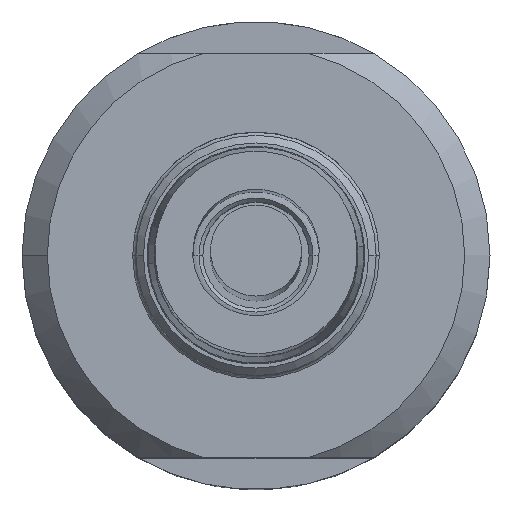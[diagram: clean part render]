
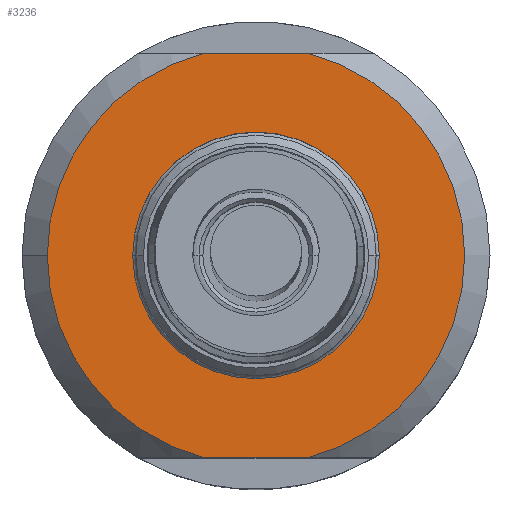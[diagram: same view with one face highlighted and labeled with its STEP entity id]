
A CAD part, top view. The second image highlights one B-rep face of the part: STEP entity #3236.
In plain terms, the highlighted planar face has unit normal (0, 0, 1).
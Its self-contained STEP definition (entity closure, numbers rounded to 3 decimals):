
#116 = ORIENTED_EDGE ( 'NONE', *, *, #2951, .T. ) ;
#213 = EDGE_CURVE ( 'NONE', #3960, #826, #1361, .T. ) ;
#432 = DIRECTION ( 'NONE',  ( 0., 0., -1. ) ) ;
#482 = EDGE_CURVE ( 'NONE', #901, #3332, #2473, .T. ) ;
#582 = ORIENTED_EDGE ( 'NONE', *, *, #482, .T. ) ;
#606 = VERTEX_POINT ( 'NONE', #1107 ) ;
#653 = ORIENTED_EDGE ( 'NONE', *, *, #2424, .T. ) ;
#681 = VECTOR ( 'NONE', #1398, 1000. ) ;
#756 = CARTESIAN_POINT ( 'NONE',  ( 0., 0., 20.3 ) ) ;
#758 = EDGE_CURVE ( 'NONE', #606, #3332, #1600, .T. ) ;
#819 = ORIENTED_EDGE ( 'NONE', *, *, #213, .T. ) ;
#826 = VERTEX_POINT ( 'NONE', #2336 ) ;
#861 = DIRECTION ( 'NONE',  ( 0., 0., -1. ) ) ;
#901 = VERTEX_POINT ( 'NONE', #2078 ) ;
#969 = DIRECTION ( 'NONE',  ( 1., 0., 0. ) ) ;
#1107 = CARTESIAN_POINT ( 'NONE',  ( -8.25, 0., 20.3 ) ) ;
#1249 = CARTESIAN_POINT ( 'NONE',  ( 0., 0., 20.3 ) ) ;
#1309 = LINE ( 'NONE', #2794, #1839 ) ;
#1342 = CARTESIAN_POINT ( 'NONE',  ( -2.016, 8., 20.3 ) ) ;
#1361 = CIRCLE ( 'NONE', #2670, 4.875 ) ;
#1376 = CARTESIAN_POINT ( 'NONE',  ( -23.067, 8., 20.3 ) ) ;
#1398 = DIRECTION ( 'NONE',  ( -1., 0., 0. ) ) ;
#1525 = CIRCLE ( 'NONE', #3519, 8.25 ) ;
#1527 = CARTESIAN_POINT ( 'NONE',  ( 0., 0., 20.3 ) ) ;
#1600 = CIRCLE ( 'NONE', #4624, 8.25 ) ;
#1634 = PLANE ( 'NONE',  #2079 ) ;
#1785 = EDGE_CURVE ( 'NONE', #2830, #606, #3267, .T. ) ;
#1839 = VECTOR ( 'NONE', #969, 1000. ) ;
#1889 = DIRECTION ( 'NONE',  ( -1., 0., 0. ) ) ;
#1932 = DIRECTION ( 'NONE',  ( 0., 0., -1. ) ) ;
#2078 = CARTESIAN_POINT ( 'NONE',  ( 2.016, 8., 20.3 ) ) ;
#2079 = AXIS2_PLACEMENT_3D ( 'NONE', #3867, #3094, #2713 ) ;
#2102 = CARTESIAN_POINT ( 'NONE',  ( -4.875, 0., 20.3 ) ) ;
#2141 = CIRCLE ( 'NONE', #2754, 4.875 ) ;
#2317 = DIRECTION ( 'NONE',  ( 0., 0., -1. ) ) ;
#2336 = CARTESIAN_POINT ( 'NONE',  ( 4.875, 0., 20.3 ) ) ;
#2369 = ORIENTED_EDGE ( 'NONE', *, *, #3209, .F. ) ;
#2382 = DIRECTION ( 'NONE',  ( 0., 0., -1. ) ) ;
#2424 = EDGE_CURVE ( 'NONE', #826, #3960, #2141, .T. ) ;
#2447 = EDGE_LOOP ( 'NONE', ( #819, #653 ) ) ;
#2473 = LINE ( 'NONE', #1376, #681 ) ;
#2589 = CARTESIAN_POINT ( 'NONE',  ( 0., 0., 20.3 ) ) ;
#2595 = DIRECTION ( 'NONE',  ( -1., 0., 0. ) ) ;
#2670 = AXIS2_PLACEMENT_3D ( 'NONE', #1527, #861, #4435 ) ;
#2713 = DIRECTION ( 'NONE',  ( 1., 0., 0. ) ) ;
#2754 = AXIS2_PLACEMENT_3D ( 'NONE', #2589, #1932, #3380 ) ;
#2794 = CARTESIAN_POINT ( 'NONE',  ( -23.067, -8., 20.3 ) ) ;
#2830 = VERTEX_POINT ( 'NONE', #4045 ) ;
#2951 = EDGE_CURVE ( 'NONE', #2830, #3184, #1309, .T. ) ;
#3094 = DIRECTION ( 'NONE',  ( 0., 0., 1. ) ) ;
#3184 = VERTEX_POINT ( 'NONE', #3799 ) ;
#3209 = EDGE_CURVE ( 'NONE', #901, #3184, #1525, .T. ) ;
#3236 = ADVANCED_FACE ( 'NONE', ( #4199, #4220 ), #1634, .T. ) ;
#3251 = EDGE_LOOP ( 'NONE', ( #4532, #116, #2369, #582, #3914 ) ) ;
#3267 = CIRCLE ( 'NONE', #4697, 8.25 ) ;
#3332 = VERTEX_POINT ( 'NONE', #1342 ) ;
#3380 = DIRECTION ( 'NONE',  ( -1., 0., 0. ) ) ;
#3519 = AXIS2_PLACEMENT_3D ( 'NONE', #1249, #2382, #4149 ) ;
#3799 = CARTESIAN_POINT ( 'NONE',  ( 2.016, -8., 20.3 ) ) ;
#3867 = CARTESIAN_POINT ( 'NONE',  ( 0., 8.25, 20.3 ) ) ;
#3914 = ORIENTED_EDGE ( 'NONE', *, *, #758, .F. ) ;
#3960 = VERTEX_POINT ( 'NONE', #2102 ) ;
#4045 = CARTESIAN_POINT ( 'NONE',  ( -2.016, -8., 20.3 ) ) ;
#4108 = CARTESIAN_POINT ( 'NONE',  ( 0., 0., 20.3 ) ) ;
#4149 = DIRECTION ( 'NONE',  ( -1., 0., 0. ) ) ;
#4199 = FACE_BOUND ( 'NONE', #2447, .T. ) ;
#4220 = FACE_OUTER_BOUND ( 'NONE', #3251, .T. ) ;
#4435 = DIRECTION ( 'NONE',  ( -1., 0., 0. ) ) ;
#4532 = ORIENTED_EDGE ( 'NONE', *, *, #1785, .F. ) ;
#4624 = AXIS2_PLACEMENT_3D ( 'NONE', #4108, #2317, #2595 ) ;
#4697 = AXIS2_PLACEMENT_3D ( 'NONE', #756, #432, #1889 ) ;
